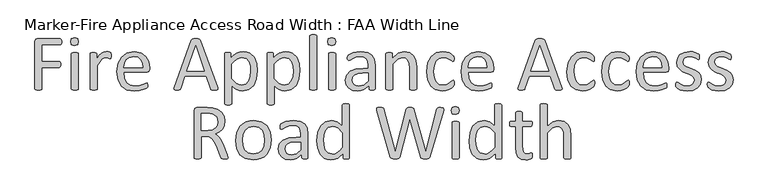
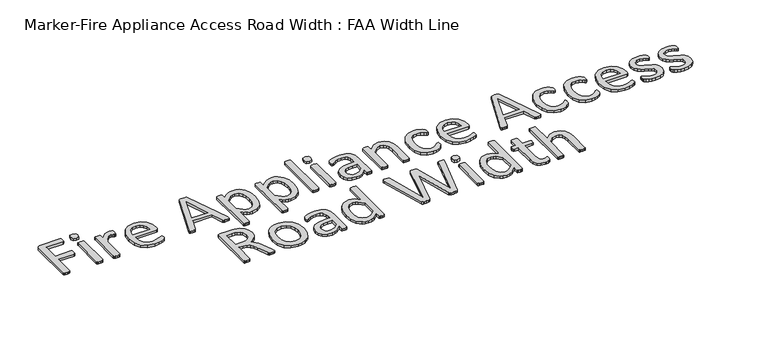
"""IFC4 building model written with IfcOpenShell, lengths in millimetres: proxy geometry, Marker-Fire Appliance Access Road Width : FAA Width Line."""

from ifc_helpers import new_model, si_unit, origin, origin_with_axes, place, context, project, spatial, polyline, outline, extrude, source, transform, mapped, element, save


def marker_fire_appliance_access_road_width_faa_width_line_8debdb87(model_context):
    return source(origin(), model_context, "Body", "SweptSolid", [
        extrude(outline(polyline([(3149.3085596, 223.7082635), (3149.0069847, 218.4910177), (3147.9514725, 214.9324338), (3146.2023381, 212.9420395), (3144.1214713, 212.3087322), (3072.1053843, 212.3087322), (3072.1053843, 146.6860331), (3140.1406825, 146.6860331), (3142.2215494, 146.1130408), (3143.9706838, 144.2432764), (3145.026196, 140.775165), (3145.3277709, 135.1658718), (3145.026196, 129.9184685), (3143.9706838, 126.3598846), (3142.2215494, 124.2488603), (3140.1406825, 123.5250805), (3072.1053843, 123.5250805), (3072.1053843, 39.6872573), (3071.472077, 37.6063905), (3069.2705802, 36.0683585), (3065.199319, 35.1334763), (3058.5948286, 34.7414289), (3052.1411256, 35.1334763), (3047.919077, 36.0683585), (3045.7175802, 37.6063905), (3045.0842729, 39.6872573), (3045.0842729, 224.6733032), (3048.2206519, 233.087243), (3054.9156148, 235.4696848), (3144.1214713, 235.4696848), (3146.1420231, 234.8363775), (3147.921315, 232.7856681), (3149.0069847, 229.0461393), (3149.3085596, 223.7082635)])), origin_with_axes(), (0.0, 0.0, 1.0), 10.0),
        extrude(outline(polyline([(3214.9312586, 224.0701534), (3211.6139347, 211.7357399), (3199.3096786, 208.4485734), (3187.3069975, 211.6452674), (3184.0499885, 223.7082635), (3187.3673124, 236.0426771), (3199.6715685, 239.3298435), (3211.6742497, 236.1331496), (3214.9312586, 224.0701534)])), origin_with_axes(), (0.0, 0.0, 1.0), 10.0),
        extrude(outline(polyline([(3214.9312586, 39.4459974), (3214.2677938, 37.3952881), (3212.126612, 35.9477285), (3208.0553508, 35.0430038), (3201.360388, 34.7414289), (3194.7860551, 35.0430038), (3190.6243214, 35.9477285), (3188.4831396, 37.3952881), (3187.9101473, 39.4459974), (3187.9101473, 176.7228935), (3188.4831396, 178.6831304), (3190.6243214, 180.2211624), (3194.7860551, 181.1258871), (3201.360388, 181.427462), (3208.0553508, 181.1258871), (3212.126612, 180.2211624), (3214.2677938, 178.6831304), (3214.9312586, 176.7228935), (3214.9312586, 39.4459974)])), origin_with_axes(), (0.0, 0.0, 1.0), 10.0),
        extrude(outline(polyline([(3342.3164979, 169.8469857), (3342.1657105, 164.3583225), (3341.5625607, 160.7997386), (3340.4467335, 158.7791868), (3338.5769691, 158.0855645), (3335.6516926, 158.7791868), (3331.7613763, 160.1664313), (3326.9060204, 161.4933609), (3321.0856247, 162.1266682), (3313.7271971, 160.4680062), (3306.157667, 155.039658), (3297.8643571, 145.0273712), (3288.2742752, 129.7375235), (3288.2742752, 39.4459974), (3287.6108104, 37.3952881), (3285.4696286, 35.9477285), (3281.3983674, 35.0430038), (3274.7034045, 34.7414289), (3268.1290716, 35.0430038), (3263.967338, 35.9477285), (3261.8261561, 37.3952881), (3261.2531638, 39.4459974), (3261.2531638, 176.7228935), (3261.7356837, 178.7736029), (3263.6959205, 180.2814774), (3267.4656068, 181.1862021), (3273.5574199, 181.427462), (3279.528603, 181.1862021), (3283.2078168, 180.2814774), (3285.1077387, 178.7736029), (3285.680731, 176.7228935), (3285.680731, 156.6983199), (3296.1152227, 170.9929704), (3305.3735722, 179.7084851), (3313.9986145, 184.0813212), (3322.6538142, 185.2876208), (3327.0568078, 185.0765184), (3332.2438961, 184.2622661), (3337.1294096, 182.9051791), (3340.2054736, 181.427462), (3341.4117732, 180.0402175), (3341.954608, 178.3212405), (3342.2561829, 175.275334), (3342.3164979, 169.8469857)])), origin_with_axes(), (0.0, 0.0, 1.0), 10.0),
        extrude(outline(polyline([(3492.8626898, 115.2619282), (3489.8770983, 106.7575159), (3483.031348, 104.2242867), (3392.4985619, 104.2242867), (3394.7603737, 81.9077438), (3402.2695888, 64.8989193), (3415.9610894, 53.9819078), (3436.5888128, 50.182064), (3453.7182673, 51.9613559), (3466.7463032, 55.9723021), (3475.7633928, 59.9832483), (3481.1012686, 61.7625403), (3482.971033, 61.2498629), (3484.2678051, 59.7419884), (3484.9312699, 56.9373418), (3485.1423723, 52.5343482), (3484.9915848, 49.3074967), (3484.5995375, 46.86474), (3483.8456002, 44.9045032), (3482.4885131, 43.2458412), (3477.5728422, 40.3205646), (3466.9875631, 36.1588309), (3451.9088179, 32.5097746), (3433.6333788, 30.8812701), (3404.1695107, 35.7064686), (3382.90848, 50.061434), (3369.8804441, 73.9763239), (3365.4774505, 107.3606657), (3370.0915466, 139.9307553), (3383.3909998, 164.4186375), (3404.3806131, 179.88943), (3431.9445593, 185.2876208), (3459.6894504, 180.070375), (3478.5378819, 166.0169845), (3489.3945784, 145.2987886), (3492.8626898, 119.9061817), (3492.8626898, 115.2619282)]), holes=[polyline([(3465.8415785, 123.5250805), (3463.888881, 141.2350668), (3457.1863787, 154.6777681), (3445.899938, 163.1595622), (3430.1954249, 165.986827), (3414.1214825, 162.4885581), (3402.5711637, 153.1698936), (3395.3635235, 139.6291804), (3392.4985619, 123.5250805), (3465.8415785, 123.5250805)])]), origin_with_axes(), (0.0, 0.0, 1.0), 10.0),
        extrude(outline(polyline([(3758.0073451, 45.1759206), (3759.3041172, 39.6872573), (3758.1581326, 36.4604059), (3754.0567139, 35.0430038), (3746.4268688, 34.7414289), (3738.7367088, 34.9826888), (3734.4241877, 35.7667836), (3732.2830058, 37.2445006), (3730.9259188, 39.5666274), (3713.7964642, 88.7836516), (3630.6221058, 88.7836516), (3614.276746, 40.2300921), (3613.0101314, 37.8174929), (3610.7784772, 36.0683585), (3606.6167435, 35.0430038), (3599.5598907, 34.7414289), (3592.2316206, 35.1334763), (3588.2206744, 36.6111933), (3587.1350047, 39.8078873), (3588.4619343, 45.2965505), (3655.5321929, 229.9810215), (3657.1305398, 232.7253531), (3660.0859739, 234.3840151), (3665.0318023, 235.2284248), (3672.6616474, 235.4696848), (3680.8644848, 235.2284248), (3686.1420456, 234.3840151), (3689.2181096, 232.6650382), (3690.9370865, 229.8603916), (3758.0073451, 45.1759206)]), holes=[polyline([(3671.9378676, 208.4485734), (3637.3170687, 108.0844455), (3706.8602415, 108.0844455), (3671.9378676, 208.4485734)])]), origin_with_axes(), (0.0, 0.0, 1.0), 10.0),
        extrude(outline(polyline([(3913.6199954, 110.1954698), (3909.7598366, 77.1127029), (3898.4206203, 52.2026158), (3879.8737637, 36.4302484), (3854.5716293, 30.8812701), (3843.3832003, 32.1177272), (3833.3105986, 36.038201), (3823.5395717, 42.7633213), (3813.2558675, 52.2930883), (3813.2558675, -18.1548092), (3812.5924027, -20.356306), (3810.4512209, -21.9244955), (3806.3799597, -22.8593777), (3799.6849968, -23.1609526), (3793.1106639, -22.8593777), (3788.9489302, -21.9244955), (3786.8077484, -20.356306), (3786.2347561, -18.2151242), (3786.2347561, 176.6022636), (3786.7172759, 178.8640754), (3788.6775128, 180.3417924), (3792.4471991, 181.1862021), (3798.0564923, 181.427462), (3803.695943, 181.2163596), (3807.3751568, 180.4322649), (3809.4258662, 179.0450203), (3809.9988585, 176.9038385), (3809.9988585, 159.3521791), (3821.9713822, 170.7517104), (3833.582016, 178.8037604), (3845.5846971, 183.6591163), (3858.552418, 185.2876208), (3872.3042336, 183.8023644), (3883.8847099, 179.3465952), (3900.9538494, 163.1218654), (3910.5740889, 139.176818), (3913.6199954, 110.1954698)]), holes=[polyline([(3886.598884, 107.2400357), (3885.0306945, 127.6868142), (3879.6325038, 145.2384736), (3869.3487995, 157.5125722), (3853.3050147, 162.1266682), (3843.8355627, 160.7092662), (3834.3962682, 156.1856426), (3824.3538239, 148.0431202), (3813.2558675, 135.6483917), (3813.2558675, 79.7364045), (3832.5868188, 60.6467131), (3841.9582589, 55.6933453), (3851.7971402, 54.0422227), (3867.78061, 58.6563188), (3878.5769916, 70.9304173), (3884.6386472, 88.0900294), (3886.598884, 107.2400357)])]), origin_with_axes(), (0.0, 0.0, 1.0), 10.0),
        extrude(outline(polyline([(4079.6068224, 110.1954698), (4075.7466636, 77.1127029), (4064.4074472, 52.2026158), (4045.8605906, 36.4302484), (4020.5584562, 30.8812701), (4009.3700273, 32.1177272), (3999.2974255, 36.038201), (3989.5263986, 42.7633213), (3979.2426944, 52.2930883), (3979.2426944, -18.1548092), (3978.5792296, -20.356306), (3976.4380478, -21.9244955), (3972.3667866, -22.8593777), (3965.6718238, -23.1609526), (3959.0974909, -22.8593777), (3954.9357572, -21.9244955), (3952.7945754, -20.356306), (3952.2215831, -18.2151242), (3952.2215831, 176.6022636), (3952.7041029, 178.8640754), (3954.6643398, 180.3417924), (3958.4340261, 181.1862021), (3964.0433193, 181.427462), (3969.68277, 181.2163596), (3973.3619838, 180.4322649), (3975.4126932, 179.0450203), (3975.9856855, 176.9038385), (3975.9856855, 159.3521791), (3987.9582091, 170.7517104), (3999.5688429, 178.8037604), (4011.5715241, 183.6591163), (4024.539245, 185.2876208), (4038.2910606, 183.8023644), (4049.8715369, 179.3465952), (4066.9406764, 163.1218654), (4076.5609158, 139.176818), (4079.6068224, 110.1954698)]), holes=[polyline([(4052.585711, 107.2400357), (4051.0175215, 127.6868142), (4045.6193307, 145.2384736), (4035.3356265, 157.5125722), (4019.2918416, 162.1266682), (4009.8223897, 160.7092662), (4000.3830952, 156.1856426), (3990.3406509, 148.0431202), (3979.2426944, 135.6483917), (3979.2426944, 79.7364045), (3998.5736458, 60.6467131), (4007.9450859, 55.6933453), (4017.7839671, 54.0422227), (4033.767437, 58.6563188), (4044.5638186, 70.9304173), (4050.6254741, 88.0900294), (4052.585711, 107.2400357)])]), origin_with_axes(), (0.0, 0.0, 1.0), 10.0),
        extrude(outline(polyline([(4145.2295214, 39.5063124), (4144.5660566, 37.455603), (4142.4248748, 35.977886), (4138.3536136, 35.0430038), (4131.6586507, 34.7414289), (4125.0843178, 35.0430038), (4120.9225842, 35.977886), (4118.7814023, 37.455603), (4118.20841, 39.5063124), (4118.20841, 245.9644914), (4118.7814023, 248.1358307), (4120.9225842, 249.6738627), (4125.0843178, 250.6087449), (4131.6586507, 250.9103198), (4138.3536136, 250.6087449), (4142.4248748, 249.6738627), (4144.5660566, 248.1358307), (4145.2295214, 245.9644914), (4145.2295214, 39.5063124)])), origin_with_axes(), (0.0, 0.0, 1.0), 10.0),
        extrude(outline(polyline([(4218.572538, 224.0701534), (4215.255214, 211.7357399), (4202.950958, 208.4485734), (4190.9482768, 211.6452674), (4187.6912678, 223.7082635), (4191.0085918, 236.0426771), (4203.3128478, 239.3298435), (4215.315529, 236.1331496), (4218.572538, 224.0701534)])), origin_with_axes(), (0.0, 0.0, 1.0), 10.0),
        extrude(outline(polyline([(4218.572538, 39.4459974), (4217.9090732, 37.3952881), (4215.7678914, 35.9477285), (4211.6966302, 35.0430038), (4205.0016673, 34.7414289), (4198.4273344, 35.0430038), (4194.2656007, 35.9477285), (4192.1244189, 37.3952881), (4191.5514266, 39.4459974), (4191.5514266, 176.7228935), (4192.1244189, 178.6831304), (4194.2656007, 180.2211624), (4198.4273344, 181.1258871), (4205.0016673, 181.427462), (4211.6966302, 181.1258871), (4215.7678914, 180.2211624), (4217.9090732, 178.6831304), (4218.572538, 176.7228935), (4218.572538, 39.4459974)])), origin_with_axes(), (0.0, 0.0, 1.0), 10.0),
        extrude(outline(polyline([(4372.9788886, 39.3856824), (4371.6519591, 36.5810358), (4368.0330602, 35.1937913), (4361.2777824, 34.7414289), (4354.4320321, 35.1937913), (4350.7226607, 36.5810358), (4349.5766761, 39.3856824), (4349.5766761, 53.258128), (4329.2505276, 37.2143431), (4317.7002088, 32.4645384), (4305.4864252, 30.8812701), (4285.5523241, 33.7462317), (4270.3831064, 42.0395416), (4260.642237, 55.3691523), (4257.1741256, 73.3430166), (4261.9691666, 93.789795), (4275.7209822, 108.2050754), (4297.6454777, 116.7999602), (4326.8379284, 119.6649218), (4345.9577773, 119.6649218), (4345.9577773, 131.1850831), (4344.2689578, 146.2638283), (4338.8406095, 157.1808398), (4329.1600551, 163.7551727), (4314.5336723, 165.986827), (4297.7962652, 163.5742277), (4284.8285443, 158.2665094), (4275.5098798, 152.9587911), (4269.9609015, 150.5461919), (4267.7895622, 151.1794992), (4266.1912153, 153.1095786), (4265.1960181, 156.4269025), (4264.8944432, 160.8600536), (4265.437278, 167.1931266), (4268.0911371, 171.6262777), (4275.3289348, 176.1499012), (4287.1506711, 180.6132098), (4301.7770539, 183.9606912), (4317.7906813, 185.2876208), (4343.4245481, 181.8798244), (4360.5238451, 171.9278526), (4370.0234546, 155.6729653), (4372.9788886, 132.9945325), (4372.9788886, 39.3856824)]), holes=[polyline([(4345.9577773, 100.3641279), (4324.4856441, 100.3641279), (4306.5720949, 98.584836), (4293.9361064, 93.3374327), (4286.5475212, 85.0139653), (4284.195237, 73.8255364), (4285.8840565, 64.084667), (4290.9505148, 56.5754519), (4299.0628797, 51.780411), (4309.8894188, 50.182064), (4328.2251729, 55.2786798), (4345.9577773, 70.8701024), (4345.9577773, 100.3641279)])]), origin_with_axes(), (0.0, 0.0, 1.0), 10.0),
        extrude(outline(polyline([(4535.1055568, 39.5063124), (4534.442092, 37.455603), (4532.3009102, 35.977886), (4528.229649, 35.0430038), (4521.6553161, 34.7414289), (4514.9603533, 35.0430038), (4510.8890921, 35.9477285), (4508.7479103, 37.3952881), (4508.0844455, 39.5063124), (4508.0844455, 120.0871266), (4506.3051535, 139.0260306), (4501.1482227, 151.4207591), (4492.372393, 159.3823366), (4479.9173495, 162.1266682), (4461.6117528, 155.4015478), (4442.4617464, 135.6483917), (4442.4617464, 39.5063124), (4441.7982816, 37.3952881), (4439.6570998, 35.9477285), (4435.5858386, 35.0430038), (4428.8908758, 34.7414289), (4422.3165429, 35.0430038), (4418.1548092, 35.9477285), (4416.0136274, 37.3952881), (4415.4406351, 39.4459974), (4415.4406351, 176.7228935), (4415.9231549, 178.7736029), (4417.8833918, 180.2814774), (4421.6530781, 181.1862021), (4427.7448911, 181.427462), (4433.7160742, 181.1862021), (4437.3952881, 180.2814774), (4439.2952099, 178.7736029), (4439.8682023, 176.7228935), (4439.8682023, 158.5680843), (4462.9386824, 178.8640754), (4486.1297925, 185.2876208), (4509.1701151, 180.5830523), (4524.3091753, 168.0073788), (4532.6024851, 149.5811522), (4535.1055568, 124.1885453), (4535.1055568, 39.5063124)])), origin_with_axes(), (0.0, 0.0, 1.0), 10.0),
        extrude(outline(polyline([(4681.79159, 62.48632), (4681.6408025, 58.2642714), (4681.0979677, 55.2485223), (4680.193243, 52.8057656), (4677.7806437, 49.1868668), (4671.2967833, 43.3061562), (4661.0130791, 37.0635557), (4648.6183506, 32.6002471), (4634.745905, 30.8812701), (4608.5692034, 35.8874135), (4589.479512, 50.5137964), (4577.7482482, 74.0969538), (4573.7071445, 106.335311), (4578.6529729, 142.0719371), (4592.1936861, 166.5296618), (4612.4293621, 180.6735248), (4637.6410241, 185.2876208), (4650.367485, 183.9305337), (4661.7067014, 180.3719499), (4670.9348934, 175.3054915), (4676.7854466, 170.3898206), (4679.2885183, 167.1629691), (4680.4345029, 164.5995824), (4681.0376527, 161.4330459), (4681.1884402, 156.9998948), (4679.8313531, 148.9780024), (4676.5441866, 146.6860331), (4671.3269408, 149.0986324), (4663.8780407, 154.4063507), (4652.9308717, 159.714069), (4637.821969, 162.1266682), (4621.9515897, 158.6283993), (4610.2881803, 148.1335927), (4603.118237, 130.9739807), (4600.7282559, 107.4812957), (4603.2011701, 84.1393981), (4610.4992827, 67.3718335), (4622.3511765, 57.3293892), (4638.4251188, 54.0422227), (4653.4737065, 57.0881293), (4664.6922929, 63.7830921), (4672.6840279, 70.3875825), (4677.7504863, 73.3430166), (4679.5297782, 72.7700243), (4680.8265503, 70.8399449), (4681.5804875, 67.401991), (4681.79159, 62.48632)])), origin_with_axes(), (0.0, 0.0, 1.0), 10.0),
        extrude(outline(polyline([(4836.1979406, 115.2619282), (4833.2123491, 106.7575159), (4826.3665988, 104.2242867), (4735.8338127, 104.2242867), (4738.0956245, 81.9077438), (4745.6048396, 64.8989193), (4759.2963402, 53.9819078), (4779.9240636, 50.182064), (4797.0535181, 51.9613559), (4810.081554, 55.9723021), (4819.0986436, 59.9832483), (4824.4365194, 61.7625403), (4826.3062838, 61.2498629), (4827.6030559, 59.7419884), (4828.2665207, 56.9373418), (4828.4776231, 52.5343482), (4828.3268356, 49.3074967), (4827.9347883, 46.86474), (4827.180851, 44.9045032), (4825.8237639, 43.2458412), (4820.908093, 40.3205646), (4810.3228139, 36.1588309), (4795.2440687, 32.5097746), (4776.9686296, 30.8812701), (4747.5047615, 35.7064686), (4726.2437308, 50.061434), (4713.2156949, 73.9763239), (4708.8127013, 107.3606657), (4713.4267974, 139.9307553), (4726.7262506, 164.4186375), (4747.7158639, 179.88943), (4775.2798101, 185.2876208), (4803.0247012, 180.070375), (4821.8731327, 166.0169845), (4832.7298292, 145.2987886), (4836.1979406, 119.9061817), (4836.1979406, 115.2619282)]), holes=[polyline([(4809.1768293, 123.5250805), (4807.2241318, 141.2350668), (4800.5216295, 154.6777681), (4789.2351888, 163.1595622), (4773.5306757, 165.986827), (4757.4567333, 162.4885581), (4745.9064145, 153.1698936), (4738.6987743, 139.6291804), (4735.8338127, 123.5250805), (4809.1768293, 123.5250805)])]), origin_with_axes(), (0.0, 0.0, 1.0), 10.0),
        extrude(outline(polyline([(5101.3425959, 45.1759206), (5102.639368, 39.6872573), (5101.4933834, 36.4604059), (5097.3919647, 35.0430038), (5089.7621196, 34.7414289), (5082.0719596, 34.9826888), (5077.7594385, 35.7667836), (5075.6182566, 37.2445006), (5074.2611696, 39.5666274), (5057.131715, 88.7836516), (4973.9573566, 88.7836516), (4957.6119968, 40.2300921), (4956.3453822, 37.8174929), (4954.113728, 36.0683585), (4949.9519943, 35.0430038), (4942.8951415, 34.7414289), (4935.5668714, 35.1334763), (4931.5559252, 36.6111933), (4930.4702555, 39.8078873), (4931.7971851, 45.2965505), (4998.8674437, 229.9810215), (5000.4657907, 232.7253531), (5003.4212247, 234.3840151), (5008.3670531, 235.2284248), (5015.9968982, 235.4696848), (5024.1997356, 235.2284248), (5029.4772964, 234.3840151), (5032.5533604, 232.6650382), (5034.2723374, 229.8603916), (5101.3425959, 45.1759206)]), holes=[polyline([(5015.2731184, 208.4485734), (4980.6523195, 108.0844455), (5050.1954923, 108.0844455), (5015.2731184, 208.4485734)])]), origin_with_axes(), (0.0, 0.0, 1.0), 10.0),
        extrude(outline(polyline([(5229.9341348, 62.48632), (5229.7833474, 58.2642714), (5229.2405126, 55.2485223), (5228.3357878, 52.8057656), (5225.9231886, 49.1868668), (5219.4393282, 43.3061562), (5209.155624, 37.0635557), (5196.7608954, 32.6002471), (5182.8884499, 30.8812701), (5156.7117482, 35.8874135), (5137.6220568, 50.5137964), (5125.8907931, 74.0969538), (5121.8496894, 106.335311), (5126.7955178, 142.0719371), (5140.336231, 166.5296618), (5160.571907, 180.6735248), (5185.7835689, 185.2876208), (5198.5100299, 183.9305337), (5209.8492463, 180.3719499), (5219.0774383, 175.3054915), (5224.9279914, 170.3898206), (5227.4310631, 167.1629691), (5228.5770478, 164.5995824), (5229.1801976, 161.4330459), (5229.330985, 156.9998948), (5227.973898, 148.9780024), (5224.6867315, 146.6860331), (5219.4694857, 149.0986324), (5212.0205856, 154.4063507), (5201.0734166, 159.714069), (5185.9645139, 162.1266682), (5170.0941346, 158.6283993), (5158.4307252, 148.1335927), (5151.2607818, 130.9739807), (5148.8708007, 107.4812957), (5151.3437149, 84.1393981), (5158.6418276, 67.3718335), (5170.4937213, 57.3293892), (5186.5676637, 54.0422227), (5201.6162514, 57.0881293), (5212.8348378, 63.7830921), (5220.8265727, 70.3875825), (5225.8930311, 73.3430166), (5227.6723231, 72.7700243), (5228.9690951, 70.8399449), (5229.7230324, 67.401991), (5229.9341348, 62.48632)])), origin_with_axes(), (0.0, 0.0, 1.0), 10.0),
        extrude(outline(polyline([(5365.0396917, 62.48632), (5364.8889042, 58.2642714), (5364.3460694, 55.2485223), (5363.4413447, 52.8057656), (5361.0287455, 49.1868668), (5354.544885, 43.3061562), (5344.2611808, 37.0635557), (5331.8664523, 32.6002471), (5317.9940067, 30.8812701), (5291.8173051, 35.8874135), (5272.7276137, 50.5137964), (5260.9963499, 74.0969538), (5256.9552462, 106.335311), (5261.9010746, 142.0719371), (5275.4417878, 166.5296618), (5295.6774638, 180.6735248), (5320.8891258, 185.2876208), (5333.6155867, 183.9305337), (5344.9548031, 180.3719499), (5354.1829951, 175.3054915), (5360.0335483, 170.3898206), (5362.53662, 167.1629691), (5363.6826046, 164.5995824), (5364.2857544, 161.4330459), (5364.4365419, 156.9998948), (5363.0794548, 148.9780024), (5359.7922883, 146.6860331), (5354.5750425, 149.0986324), (5347.1261424, 154.4063507), (5336.1789734, 159.714069), (5321.0700707, 162.1266682), (5305.1996914, 158.6283993), (5293.536282, 148.1335927), (5286.3663387, 130.9739807), (5283.9763576, 107.4812957), (5286.4492718, 84.1393981), (5293.7473844, 67.3718335), (5305.5992782, 57.3293892), (5321.6732205, 54.0422227), (5336.7218082, 57.0881293), (5347.9403946, 63.7830921), (5355.9321296, 70.3875825), (5360.998588, 73.3430166), (5362.7778799, 72.7700243), (5364.074652, 70.8399449), (5364.8285892, 67.401991), (5365.0396917, 62.48632)])), origin_with_axes(), (0.0, 0.0, 1.0), 10.0),
        extrude(outline(polyline([(5519.4460423, 115.2619282), (5516.4604508, 106.7575159), (5509.6147005, 104.2242867), (5419.0819144, 104.2242867), (5421.3437262, 81.9077438), (5428.8529413, 64.8989193), (5442.5444419, 53.9819078), (5463.1721653, 50.182064), (5480.3016198, 51.9613559), (5493.3296557, 55.9723021), (5502.3467453, 59.9832483), (5507.6846211, 61.7625403), (5509.5543855, 61.2498629), (5510.8511576, 59.7419884), (5511.5146224, 56.9373418), (5511.7257248, 52.5343482), (5511.5749374, 49.3074967), (5511.18289, 46.86474), (5510.4289527, 44.9045032), (5509.0718657, 43.2458412), (5504.1561947, 40.3205646), (5493.5709156, 36.1588309), (5478.4921704, 32.5097746), (5460.2167313, 30.8812701), (5430.7528632, 35.7064686), (5409.4918325, 50.061434), (5396.4637966, 73.9763239), (5392.060803, 107.3606657), (5396.6748991, 139.9307553), (5409.9743523, 164.4186375), (5430.9639656, 179.88943), (5458.5279118, 185.2876208), (5486.2728029, 180.070375), (5505.1212344, 166.0169845), (5515.9779309, 145.2987886), (5519.4460423, 119.9061817), (5519.4460423, 115.2619282)]), holes=[polyline([(5492.424931, 123.5250805), (5490.4722335, 141.2350668), (5483.7697312, 154.6777681), (5472.4832905, 163.1595622), (5456.7787774, 165.986827), (5440.704835, 162.4885581), (5429.1545162, 153.1698936), (5421.946876, 139.6291804), (5419.0819144, 123.5250805), (5492.424931, 123.5250805)])]), origin_with_axes(), (0.0, 0.0, 1.0), 10.0),
        extrude(outline(polyline([(5646.8312816, 75.9968757), (5642.8203354, 56.7865544), (5631.3906466, 42.5823764), (5613.7485147, 33.8367042), (5591.2208694, 30.8812701), (5576.7754315, 32.2685147), (5564.5013329, 35.7969411), (5555.3032984, 40.2602496), (5549.7844776, 44.4521408), (5547.2512485, 48.8852919), (5546.4671537, 55.9119871), (5546.7687286, 60.4657682), (5547.5528234, 63.4513597), (5548.8797529, 65.1100217), (5550.8098323, 65.622699), (5555.8159757, 63.2100998), (5564.0188131, 57.9023815), (5575.5691319, 52.5946632), (5590.8589795, 50.182064), (5602.6204008, 51.659781), (5611.7581203, 56.0326171), (5617.7293034, 63.3910447), (5619.8101703, 73.9461664), (5616.8245787, 83.9282957), (5608.8931588, 91.1359359), (5597.8253598, 96.6849141), (5585.1592138, 101.7513725), (5572.4025954, 107.7527131), (5561.244324, 115.9555505), (5553.312904, 127.5058693), (5550.3273125, 143.6099691), (5553.5240064, 159.4426516), (5563.1140884, 172.7119473), (5579.0975583, 181.8496669), (5601.5347311, 185.2876208), (5612.7533175, 184.2622661), (5622.8862343, 181.668722), (5630.6065518, 178.291083), (5635.4317503, 175.0943891), (5637.6030896, 172.8024198), (5638.3871843, 170.8120254), (5638.8697042, 168.0676938), (5639.1109641, 164.0567476), (5638.8697042, 159.6839115), (5638.0856094, 156.638005), (5636.7285224, 154.919028), (5634.9492304, 154.4063507), (5630.7874968, 156.2459576), (5623.7608015, 160.1965888), (5613.6278847, 164.1472201), (5600.3284315, 165.986827), (5588.5066953, 164.448795), (5580.122913, 160.0759589), (5575.1770845, 153.380996), (5573.4882651, 144.9972137), (5576.684959, 134.7738244), (5585.0385839, 127.5058693), (5596.7698476, 121.8965761), (5610.1597734, 116.7698027), (5623.6401715, 110.8287771), (5635.4317503, 102.8671996), (5643.6949026, 91.6184557), (5646.8312816, 75.9968757)])), origin_with_axes(), (0.0, 0.0, 1.0), 10.0),
        extrude(outline(polyline([(5770.3563622, 75.9968757), (5766.345416, 56.7865544), (5754.9157271, 42.5823764), (5737.2735952, 33.8367042), (5714.7459499, 30.8812701), (5700.3005121, 32.2685147), (5688.0264135, 35.7969411), (5678.8283789, 40.2602496), (5673.3095582, 44.4521408), (5670.776329, 48.8852919), (5669.9922342, 55.9119871), (5670.2938091, 60.4657682), (5671.0779039, 63.4513597), (5672.4048335, 65.1100217), (5674.3349129, 65.622699), (5679.3410563, 63.2100998), (5687.5438936, 57.9023815), (5699.0942124, 52.5946632), (5714.3840601, 50.182064), (5726.1454813, 51.659781), (5735.2832009, 56.0326171), (5741.254384, 63.3910447), (5743.3352508, 73.9461664), (5740.3496593, 83.9282957), (5732.4182393, 91.1359359), (5721.3504403, 96.6849141), (5708.6842944, 101.7513725), (5695.927676, 107.7527131), (5684.7694045, 115.9555505), (5676.8379846, 127.5058693), (5673.852393, 143.6099691), (5677.049087, 159.4426516), (5686.6391689, 172.7119473), (5702.6226388, 181.8496669), (5725.0598116, 185.2876208), (5736.2783981, 184.2622661), (5746.4113148, 181.668722), (5754.1316324, 178.291083), (5758.9568308, 175.0943891), (5761.1281701, 172.8024198), (5761.9122649, 170.8120254), (5762.3947847, 168.0676938), (5762.6360446, 164.0567476), (5762.3947847, 159.6839115), (5761.61069, 156.638005), (5760.2536029, 154.919028), (5758.474311, 154.4063507), (5754.3125773, 156.2459576), (5747.285882, 160.1965888), (5737.1529653, 164.1472201), (5723.853512, 165.986827), (5712.0317758, 164.448795), (5703.6479935, 160.0759589), (5698.7021651, 153.380996), (5697.0133456, 144.9972137), (5700.2100396, 134.7738244), (5708.5636644, 127.5058693), (5720.2949282, 121.8965761), (5733.6848539, 116.7698027), (5747.1652521, 110.8287771), (5758.9568308, 102.8671996), (5767.2199832, 91.6184557), (5770.3563622, 75.9968757)])), origin_with_axes(), (0.0, 0.0, 1.0), 10.0),
        extrude(outline(polyline([(3799.081847, -229.8559155), (3798.6294846, -231.9669398), (3796.6390903, -233.5049718), (3792.2964117, -234.439854), (3784.8475115, -234.7414289), (3778.3033361, -234.439854), (3774.2019174, -233.4446568), (3771.8194757, -231.5447349), (3770.3719162, -228.4686709), (3751.975847, -182.0261357), (3745.3110417, -167.4902254), (3737.2288343, -156.0605365), (3726.2213503, -148.6116364), (3710.9616601, -145.9577773), (3693.5909457, -145.9577773), (3693.5909457, -229.8559155), (3692.8973234, -231.9970973), (3690.6958266, -233.4446568), (3686.5944079, -234.3493815), (3680.08039, -234.7414289), (3673.5663721, -234.3493815), (3669.4046384, -233.4144993), (3667.2031416, -231.9669398), (3666.5698343, -229.7956005), (3666.5698343, -44.8095546), (3669.6760558, -36.3956148), (3676.3408612, -34.013173), (3718.1994578, -34.013173), (3730.5640289, -34.4052204), (3739.490646, -35.2797876), (3759.6660071, -41.6128606), (3774.3828624, -52.6505021), (3783.279322, -67.9705072), (3786.2347561, -86.9697261), (3783.6110544, -105.0642203), (3776.0113669, -119.2080833), (3764.0991582, -129.8235199), (3748.5378931, -137.453365), (3757.5248253, -142.9118707), (3765.0340404, -150.8131332), (3771.5782158, -161.3984123), (3777.7906588, -174.908968), (3795.7042081, -218.637329), (3798.4786972, -226.3576466), (3799.081847, -229.8559155)]), holes=[polyline([(3759.2136447, -89.8648452), (3754.0567139, -70.5037364), (3747.1431092, -63.7032223), (3736.7161569, -59.104205), (3728.1514297, -57.626488), (3715.6059137, -57.1741256), (3693.5909457, -57.1741256), (3693.5909457, -122.7968247), (3719.1041825, -122.7968247), (3736.9574168, -120.3239105), (3749.5029328, -113.3876877), (3756.8613605, -102.9230385), (3759.2136447, -89.8648452)])]), origin_with_axes(), (0.0, 0.0, 1.0), 10.0),
        extrude(outline(polyline([(3967.6622181, -159.8905378), (3963.1989096, -191.5257452), (3949.8391413, -216.4358322), (3939.8268545, -225.7469574), (3927.5829134, -232.7510345), (3913.1600937, -237.1389494), (3896.6111708, -238.6015877), (3866.7552554, -233.4446568), (3845.5243822, -218.4563841), (3832.8582362, -194.5716517), (3828.6965025, -162.7253419), (3833.0994961, -131.0901345), (3846.3687919, -106.210205), (3856.3433818, -96.9367767), (3868.5345473, -89.9854751), (3882.9422883, -85.6427965), (3899.5666049, -84.195237), (3929.4526778, -89.3521679), (3950.6835511, -104.3404406), (3963.410012, -128.2251729), (3967.6622181, -159.8905378)]), holes=[polyline([(3940.6411068, -161.6999872), (3938.5602399, -140.7405314), (3931.7144896, -123.430132), (3918.8372412, -111.6687107), (3898.5412502, -107.3561896), (3879.2706139, -111.3068208), (3866.0013181, -122.4650923), (3858.2508431, -139.5342318), (3855.7176139, -161.0968374), (3857.7984807, -182.1769232), (3864.704546, -199.4270077), (3877.6722669, -211.1281139), (3897.9381004, -215.4406351), (3917.1484218, -211.4900038), (3930.50819, -200.4222049), (3938.19835, -183.4133803), (3940.6411068, -161.6999872)])]), origin_with_axes(), (0.0, 0.0, 1.0), 10.0),
        extrude(outline(polyline([(4110.4880925, -230.0971754), (4109.1611629, -232.901822), (4105.5422641, -234.2890665), (4098.7869862, -234.7414289), (4091.9412359, -234.2890665), (4088.2318646, -232.901822), (4087.08588, -230.0971754), (4087.08588, -216.2247298), (4066.7597315, -232.2685147), (4055.2094127, -237.0183194), (4042.9956291, -238.6015877), (4023.0615279, -235.7366261), (4007.8923103, -227.4433162), (3998.1514409, -214.1137055), (3994.6833295, -196.1398412), (3999.4783705, -175.6930628), (4013.2301861, -161.2777824), (4035.1546816, -152.6828976), (4064.3471322, -149.817936), (4083.4669811, -149.817936), (4083.4669811, -138.2977747), (4081.7781617, -123.2190295), (4076.3498134, -112.302018), (4066.669259, -105.7276851), (4052.0428762, -103.4960308), (4035.305469, -105.9086301), (4022.3377482, -111.2163484), (4013.0190836, -116.5240667), (4007.4701054, -118.9366659), (4005.2987661, -118.3033586), (4003.7004191, -116.3732792), (4002.7052219, -113.0559553), (4002.403647, -108.6228042), (4002.9464819, -102.2897312), (4005.600341, -97.8565801), (4012.8381387, -93.3329566), (4024.6598749, -88.869648), (4039.2862577, -85.5221666), (4055.2998851, -84.195237), (4080.9337519, -87.6030334), (4098.033049, -97.5550052), (4107.5326584, -113.8098925), (4110.4880925, -136.4883253), (4110.4880925, -230.0971754)]), holes=[polyline([(4083.4669811, -169.1187299), (4061.994848, -169.1187299), (4044.0812987, -170.8980218), (4031.4453103, -176.1454251), (4024.0567251, -184.4688925), (4021.7044409, -195.6573214), (4023.3932603, -205.3981908), (4028.4597187, -212.9074059), (4036.5720836, -217.7024468), (4047.3986227, -219.3007938), (4065.7343768, -214.204178), (4083.4669811, -198.6127554), (4083.4669811, -169.1187299)])]), origin_with_axes(), (0.0, 0.0, 1.0), 10.0),
        extrude(outline(polyline([(4272.6147607, -229.9162304), (4272.0417684, -232.1177272), (4270.0815315, -233.5954443), (4266.4324752, -234.439854), (4260.9136544, -234.7414289), (4255.1837313, -234.439854), (4251.4442025, -233.6557592), (4249.3331781, -232.2986722), (4248.6697133, -230.2781203), (4248.6697133, -213.1486658), (4226.262698, -231.8764673), (4214.10169, -236.9203076), (4200.8399336, -238.6015877), (4186.8770156, -237.1012525), (4175.1457518, -232.6002471), (4157.9258248, -216.3755173), (4148.2754279, -192.30984), (4145.2295214, -163.2078618), (4149.0293652, -130.4869847), (4160.2479516, -105.5768977), (4178.6440207, -89.7442152), (4204.0366276, -84.195237), (4225.9611231, -89.5934278), (4245.5936493, -105.4261102), (4245.5936493, -23.5786814), (4246.1666416, -21.467657), (4248.3681384, -19.8994675), (4252.5298721, -18.9645853), (4258.9232601, -18.572538), (4265.6182229, -18.9645853), (4269.6894841, -19.8994675), (4271.8909809, -21.4374996), (4272.6147607, -23.5183664), (4272.6147607, -229.9162304)]), holes=[polyline([(4245.5936493, -132.9297414), (4226.2325405, -113.900365), (4216.6876948, -108.9922335), (4206.7508017, -107.3561896), (4190.7673318, -111.9401281), (4180.0915803, -124.0332818), (4174.1203972, -141.0421063), (4172.2506328, -160.3127427), (4173.8188223, -180.6992062), (4179.277328, -198.3714955), (4189.5911897, -210.7662241), (4205.7254471, -215.4406351), (4215.194899, -214.083548), (4224.5437211, -209.5900819), (4234.5258504, -201.4475595), (4245.5936493, -189.0829885), (4245.5936493, -132.9297414)])]), origin_with_axes(), (0.0, 0.0, 1.0), 10.0),
        extrude(outline(polyline([(4587.2177002, -227.9861511), (4585.3177783, -231.4542625), (4581.9401394, -233.4446568), (4576.6324211, -234.439854), (4568.8216311, -234.7414289), (4560.6791087, -234.439854), (4555.1904454, -233.4446568), (4551.9635939, -231.4542625), (4550.244617, -227.9861511), (4508.3860204, -77.801849), (4469.4225428, -227.9861511), (4467.8845108, -231.4542625), (4464.8084468, -233.4446568), (4459.6213585, -234.439854), (4451.5089935, -234.7414289), (4443.0045813, -234.439854), (4437.455603, -233.4446568), (4434.1081216, -231.4542625), (4432.5097746, -227.9861511), (4379.6135365, -44.3270347), (4378.6183393, -38.7780565), (4379.8547964, -35.7019925), (4384.1070026, -34.3147479), (4391.9781076, -34.013173), (4399.5777951, -34.254433), (4403.8300013, -35.0988427), (4405.8505531, -36.7876621), (4406.6949629, -39.5621513), (4451.6296235, -206.152128), (4494.4532598, -39.8637262), (4495.6294019, -37.0289221), (4497.8610562, -35.2496301), (4502.2640498, -34.3147479), (4509.7732649, -34.013173), (4516.6491727, -34.3147479), (4520.7204339, -35.2496301), (4522.9822457, -37.0289221), (4524.1282303, -39.8637262), (4570.0279307, -206.152128), (4614.4197565, -39.6827812), (4615.3244812, -37.0289221), (4617.2545606, -35.2496301), (4621.4162943, -34.3147479), (4628.593777, -34.013173), (4635.9522046, -34.4052204), (4639.9028359, -35.8527799), (4641.0488205, -38.928844), (4640.2345682, -44.4476647), (4587.2177002, -227.9861511)])), origin_with_axes(), (0.0, 0.0, 1.0), 10.0),
        extrude(outline(polyline([(4701.0923838, -45.4127044), (4697.7750599, -57.7471179), (4685.4708038, -61.0342844), (4673.4681226, -57.8375904), (4670.2111137, -45.7745943), (4673.5284376, -33.4401807), (4685.8326937, -30.1530143), (4697.8353748, -33.3497082), (4701.0923838, -45.4127044)])), origin_with_axes(), (0.0, 0.0, 1.0), 10.0),
        extrude(outline(polyline([(4701.0923838, -230.0368604), (4700.428919, -232.0875697), (4698.2877372, -233.5351293), (4694.216476, -234.439854), (4687.5215131, -234.7414289), (4680.9471802, -234.439854), (4676.7854466, -233.5351293), (4674.6442648, -232.0875697), (4674.0712724, -230.0368604), (4674.0712724, -92.7599643), (4674.6442648, -90.7997274), (4676.7854466, -89.2616954), (4680.9471802, -88.3569707), (4687.5215131, -88.0553958), (4694.216476, -88.3569707), (4698.2877372, -89.2616954), (4700.428919, -90.7997274), (4701.0923838, -92.7599643), (4701.0923838, -230.0368604)])), origin_with_axes(), (0.0, 0.0, 1.0), 10.0),
        extrude(outline(polyline([(4867.0792108, -229.9162304), (4866.5062185, -232.1177272), (4864.5459816, -233.5954443), (4860.8969252, -234.439854), (4855.3781045, -234.7414289), (4849.6481813, -234.439854), (4845.9086525, -233.6557592), (4843.7976282, -232.2986722), (4843.1341634, -230.2781203), (4843.1341634, -213.1486658), (4820.7271481, -231.8764673), (4808.5661401, -236.9203076), (4795.3043837, -238.6015877), (4781.3414657, -237.1012525), (4769.6102019, -232.6002471), (4752.3902749, -216.3755173), (4742.739878, -192.30984), (4739.6939715, -163.2078618), (4743.4938153, -130.4869847), (4754.7124017, -105.5768977), (4773.1084708, -89.7442152), (4798.5010777, -84.195237), (4820.4255732, -89.5934278), (4840.0580994, -105.4261102), (4840.0580994, -23.5786814), (4840.6310917, -21.467657), (4842.8325885, -19.8994675), (4846.9943222, -18.9645853), (4853.3877101, -18.572538), (4860.082673, -18.9645853), (4864.1539342, -19.8994675), (4866.355431, -21.4374996), (4867.0792108, -23.5183664), (4867.0792108, -229.9162304)]), holes=[polyline([(4840.0580994, -132.9297414), (4820.6969906, -113.900365), (4811.1521449, -108.9922335), (4801.2152518, -107.3561896), (4785.2317819, -111.9401281), (4774.5560303, -124.0332818), (4768.5848472, -141.0421063), (4766.7150828, -160.3127427), (4768.2832723, -180.6992062), (4773.7417781, -198.3714955), (4784.0556398, -210.7662241), (4800.1898971, -215.4406351), (4809.6593491, -214.083548), (4819.0081711, -209.5900819), (4828.9903004, -201.4475595), (4840.0580994, -189.0829885), (4840.0580994, -132.9297414)])]), origin_with_axes(), (0.0, 0.0, 1.0), 10.0),
        extrude(outline(polyline([(4986.7441325, -220.8689833), (4986.1409827, -228.4083559), (4984.3013758, -232.5097746), (4980.622162, -234.9826888), (4975.0430263, -236.8826107), (4968.3782209, -238.1190678), (4961.3515256, -238.6015877), (4942.985614, -235.6763111), (4930.4702555, -226.8401664), (4923.3530878, -211.8518937), (4921.1214335, -190.4099181), (4921.1214335, -107.3561896), (4902.7856794, -107.3561896), (4899.257253, -105.0943778), (4897.9604809, -97.7661077), (4898.3223708, -93.2726416), (4899.257253, -90.2267351), (4900.795285, -88.5379156), (4902.9063093, -88.0553958), (4921.1214335, -88.0553958), (4921.1214335, -54.4599515), (4921.6944258, -52.4393996), (4923.8356076, -50.7807377), (4927.9973413, -49.755383), (4934.5716742, -49.4538081), (4941.2666371, -49.755383), (4945.3378983, -50.7807377), (4947.4790801, -52.4393996), (4948.1425449, -54.4599515), (4948.1425449, -88.0553958), (4981.9189341, -88.0553958), (4983.9394859, -88.5379156), (4985.4775179, -90.2267351), (4986.4425576, -93.2726416), (4986.7441325, -97.7661077), (4985.417203, -105.0943778), (4981.9189341, -107.3561896), (4948.1425449, -107.3561896), (4948.1425449, -186.0069245), (4952.1534911, -207.9917349), (4957.7552449, -213.57841), (4966.538614, -215.4406351), (4972.5399546, -214.7470128), (4977.2143656, -213.2994533), (4980.742792, -211.8217362), (4983.3664936, -211.0979565), (4985.7790928, -212.9677209), (4986.4425576, -215.9834699), (4986.7441325, -220.8689833)])), origin_with_axes(), (0.0, 0.0, 1.0), 10.0),
        extrude(outline(polyline([(5137.2903244, -229.9765454), (5136.6268596, -232.0272548), (5134.4856778, -233.5049718), (5130.4144166, -234.439854), (5123.8400837, -234.7414289), (5117.1451209, -234.439854), (5113.0738597, -233.5351293), (5110.9326779, -232.0875697), (5110.2692131, -229.9765454), (5110.2692131, -149.3957312), (5108.4899211, -130.4568272), (5103.3329903, -118.0620987), (5094.5571606, -110.1005212), (5082.1021171, -107.3561896), (5063.7965204, -114.08131), (5044.646514, -133.8344661), (5044.646514, -229.9765454), (5043.9830492, -232.0875697), (5041.8418674, -233.5351293), (5037.7706062, -234.439854), (5031.0756434, -234.7414289), (5024.5013105, -234.439854), (5020.3395768, -233.5049718), (5018.198395, -232.0272548), (5017.6254027, -229.9765454), (5017.6254027, -23.5183664), (5018.198395, -21.3470271), (5020.3395768, -19.8089951), (5024.5013105, -18.8741129), (5031.0756434, -18.572538), (5037.7706062, -18.8741129), (5041.8418674, -19.8089951), (5043.9830492, -21.3771846), (5044.646514, -23.5183664), (5044.646514, -106.9942997), (5066.3599071, -89.8045302), (5088.3748751, -84.195237), (5111.4151977, -88.8998055), (5126.5241004, -101.475479), (5134.7872527, -119.9017056), (5137.2903244, -145.4149424), (5137.2903244, -229.9765454)])), origin_with_axes(), (0.0, 0.0, 1.0), 10.0),
    ])


if __name__ == "__main__":
    model = new_model("IFC4")
    model_context = context("Model", 3, world=origin())
    ifc_project = project(units=[si_unit("LENGTHUNIT", "METRE", prefix="MILLI")], contexts=[model_context])
    site = spatial("IfcSite", under=ifc_project)
    building = spatial("IfcBuilding", under=site)
    placement = place(None, origin())
    marker_fire_appliance_access_road_width_faa_width_line_shape = marker_fire_appliance_access_road_width_faa_width_line_8debdb87(model_context)
    element("IfcBuildingElementProxy", 1, Name="Marker-Fire Appliance Access Road Width : FAA Width Line", ObjectType="Marker-Fire Appliance Access Road Width : FAA Width Line", at=placement, inside=building, context=model_context, shape_type="MappedRepresentation", body=[
        mapped(marker_fire_appliance_access_road_width_faa_width_line_shape, transform((0.0, 0.0, 0.0), x_axis=(1.0, 0.0, 0.0), y_axis=(0.0, 1.0, 0.0), z_axis=(0.0, 0.0, 1.0))),
    ])
    save(model, "model.ifc")
